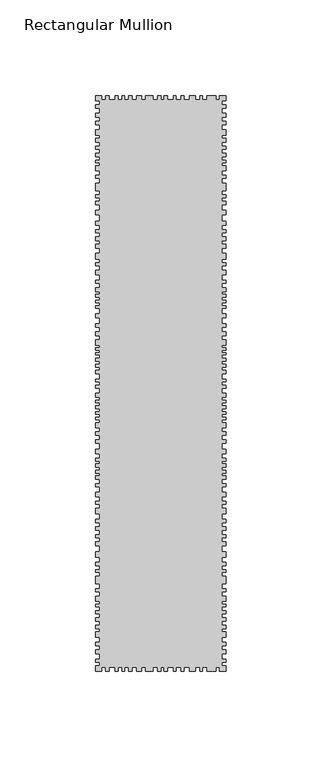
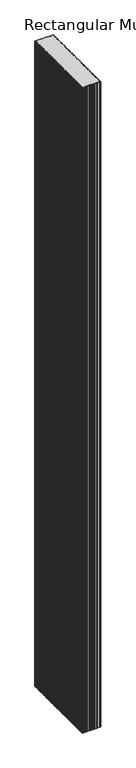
"""IFC4 building model written with IfcOpenShell, lengths in millimetres: member geometry, Rectangular Mullion : DucoSun Cubic Design louvre 300."""

import ifcopenshell
import ifcopenshell.guid

model = None  # the IFC model being written
_history = None  # IfcOwnerHistory: only IFC2X3 demands one
_inside = {}  # id of a spatial element -> (the spatial element, [elements in it])
_under = {}  # id of a project, library or spatial element -> (it, [spatial elements below it])
_declared = {}  # id of a project -> (the project, [libraries it declares])
_typed = {}  # id of a type object -> (the type object, [elements of that type])
_made_of = {}  # id of a material, layer set ... -> (it, [elements and type objects made of it])


def new_model(schema):
    """Start an empty IFC model of exactly this schema.

    Asked for "IFC4X3", IfcOpenShell would pick the latest addendum, in which some entities
    have other attributes; the version numbers below select the first issue.
    IFC2X3 requires an IfcOwnerHistory on every rooted entity: one is made here for all.
    """
    global model, _history
    if schema == "IFC4X3":
        model = ifcopenshell.file(schema_version=(4, 3, 0, 0))
    else:
        model = ifcopenshell.file(schema=schema)
    _inside.clear()
    _under.clear()
    _declared.clear()
    _typed.clear()
    _made_of.clear()
    _history = None
    if model.schema == "IFC2X3":
        org = make("IfcOrganization", Name="unknown")
        user = make(
            "IfcPersonAndOrganization",
            ThePerson=make("IfcPerson", FamilyName="unknown"),
            TheOrganization=org,
        )
        app = make(
            "IfcApplication",
            ApplicationDeveloper=org,
            Version="unknown",
            ApplicationFullName="unknown",
            ApplicationIdentifier="unknown",
        )
        _history = make(
            "IfcOwnerHistory",
            OwningUser=user,
            OwningApplication=app,
            ChangeAction="ADDED",
            CreationDate=0,
        )
    return model


def make(cls, **values):
    """One entity of the class cls with the attributes given. An attribute that is None is left unset."""
    return model.create_entity(
        cls, **{name: value for name, value in values.items() if value is not None}
    )


def rooted(cls, **values):
    """An entity with a GlobalId (a new one), such as an element, a storey or a relation."""
    return make(cls, GlobalId=ifcopenshell.guid.new(), OwnerHistory=_history, **values)


def si_unit(unit_type, name, prefix=None):
    """IfcSIUnit, for example si_unit("LENGTHUNIT", "METRE", prefix="MILLI")."""
    return make("IfcSIUnit", UnitType=unit_type, Prefix=prefix, Name=name)


def assignment(units):
    """IfcUnitAssignment: the units of a project."""
    return None if units is None else make("IfcUnitAssignment", Units=units)


def point(xyz):
    """IfcCartesianPoint."""
    return None if xyz is None else make("IfcCartesianPoint", Coordinates=xyz)


def direction(xyz):
    """IfcDirection."""
    return None if xyz is None else make("IfcDirection", DirectionRatios=xyz)


def frame(location, z_axis=None, x_axis=None):
    """IfcAxis2Placement3D, a coordinate frame: its origin and axes. An axis left out is left unset."""
    return make(
        "IfcAxis2Placement3D",
        Location=point(location),
        Axis=direction(z_axis),
        RefDirection=direction(x_axis),
    )


def origin():
    """The frame at (0, 0, 0) with its axes left unset."""
    return frame((0.0, 0.0, 0.0))


def place(relative_to, where):
    """IfcLocalPlacement: puts the frame where relative to a parent placement (None: the world)."""
    return make(
        "IfcLocalPlacement", PlacementRelTo=relative_to, RelativePlacement=where
    )


def context(
    kind, dimensions, precision=None, world=None, true_north=None, identifier=None
):
    """IfcGeometricRepresentationContext, for example the 3D "Model" context."""
    return make(
        "IfcGeometricRepresentationContext",
        ContextIdentifier=identifier,
        ContextType=kind,
        CoordinateSpaceDimension=dimensions,
        Precision=precision,
        WorldCoordinateSystem=world,
        TrueNorth=true_north,
    )


def project(units=None, contexts=None):
    """IfcProject with its units and contexts."""
    return rooted(
        "IfcProject",
        Name="project",
        RepresentationContexts=contexts,
        UnitsInContext=assignment(units),
    )


def spatial(cls, under=None, at=None, **own):
    """A site, building, storey or space (cls), placed at a placement, below another one or the project."""
    s = rooted(cls, ObjectPlacement=at, **own)
    if under is not None:
        _under.setdefault(under.id(), (under, []))[1].append(s)
    return s


def polyline(points):
    """IfcPolyline through the points."""
    return make("IfcPolyline", Points=[point(p) for p in points])


def outline(outer, holes=None, kind="AREA"):
    """IfcArbitraryClosedProfileDef: a profile drawn as a closed curve; with holes, ...WithVoids."""
    if holes is None:
        return make("IfcArbitraryClosedProfileDef", ProfileType=kind, OuterCurve=outer)
    return make(
        "IfcArbitraryProfileDefWithVoids",
        ProfileType=kind,
        OuterCurve=outer,
        InnerCurves=holes,
    )


def extrude(swept, where, along, depth):
    """IfcExtrudedAreaSolid: the profile swept, set in the frame where, extruded along a direction by depth."""
    return make(
        "IfcExtrudedAreaSolid",
        SweptArea=swept,
        Position=where,
        ExtrudedDirection=direction(along),
        Depth=depth,
    )


def shape(context_of_items, identifier, shape_type, items):
    """IfcShapeRepresentation: the items that make up one representation, for example the "Body"."""
    return make(
        "IfcShapeRepresentation",
        ContextOfItems=context_of_items,
        RepresentationIdentifier=identifier,
        RepresentationType=shape_type,
        Items=items,
    )


def source(mapping_origin, context_of_items, identifier, shape_type, items):
    """IfcRepresentationMap: a shape defined once, which mapped items show again and again."""
    return make(
        "IfcRepresentationMap",
        MappingOrigin=mapping_origin,
        MappedRepresentation=shape(context_of_items, identifier, shape_type, items),
    )


def transform(
    local_origin,
    x_axis=None,
    y_axis=None,
    z_axis=None,
    scale=None,
    scale2=None,
    scale3=None,
    uniform=True,
):
    """IfcCartesianTransformationOperator3D, or its non-uniform kind. x_axis, y_axis, z_axis: its Axis1, 2, 3."""
    if uniform:
        return make(
            "IfcCartesianTransformationOperator3D",
            Axis1=direction(x_axis),
            Axis2=direction(y_axis),
            LocalOrigin=point(local_origin),
            Scale=scale,
            Axis3=direction(z_axis),
        )
    return make(
        "IfcCartesianTransformationOperator3DnonUniform",
        Axis1=direction(x_axis),
        Axis2=direction(y_axis),
        LocalOrigin=point(local_origin),
        Scale=scale,
        Axis3=direction(z_axis),
        Scale2=scale2,
        Scale3=scale3,
    )


def mapped(mapping_source, mapping_target):
    """IfcMappedItem: shows the shape of a source again, moved by a transform."""
    return make(
        "IfcMappedItem", MappingSource=mapping_source, MappingTarget=mapping_target
    )


def made_of(thing, what):
    """Note that an element or type object is made of a material, layer set ...; save() writes the relation."""
    if what is not None:
        _made_of.setdefault(what.id(), (what, []))[1].append(thing)
    return thing


def element(
    cls,
    number,
    at=None,
    inside=None,
    cuts=None,
    type_object=None,
    material=None,
    context=None,
    identifier="Body",
    shape_type=None,
    held_by="IfcProductDefinitionShape",
    body=None,
    shapes=None,
    **own,
):
    """One element of the class cls, such as IfcWall. Its Tag is "e" and its number.

    at: its placement. inside: the storey or other place that contains it. cuts: it is an
    opening in that element (IfcRelVoidsElement). A single representation is given by context,
    identifier, shape_type and body (its items); several are given by shapes. held_by: the class
    of the entity that holds the representations. save() writes the other relations.
    """
    e = rooted(cls, Tag="e%d" % number, ObjectPlacement=at, **own)
    if body is not None:
        shapes = [shape(context, identifier, shape_type, body)]
    if shapes is not None:
        e.Representation = make(held_by, Representations=shapes)
    if inside is not None:
        _inside.setdefault(inside.id(), (inside, []))[1].append(e)
    if cuts is not None:
        rooted(
            "IfcRelVoidsElement", RelatingBuildingElement=cuts, RelatedOpeningElement=e
        )
    if type_object is not None:
        _typed.setdefault(type_object.id(), (type_object, []))[1].append(e)
    return made_of(e, material)


def aggregate(whole, parts):
    """IfcRelAggregates: a whole, such as a stair, and the parts it consists of."""
    return rooted("IfcRelAggregates", RelatingObject=whole, RelatedObjects=parts)


def save(model, path):
    """Write the relations noted so far, then the file.

    IfcRelAggregates (storeys below a building ...), IfcRelContainedInSpatialStructure (elements
    in a storey), IfcRelDefinesByType, IfcRelAssociatesMaterial and IfcRelDeclares: one each for
    every whole, place, type object, material and project.
    """
    for whole, parts in _under.values():
        aggregate(whole, parts)
    for where, things in _inside.values():
        rooted(
            "IfcRelContainedInSpatialStructure",
            RelatedElements=things,
            RelatingStructure=where,
        )
    for kind, things in _typed.values():
        rooted("IfcRelDefinesByType", RelatedObjects=things, RelatingType=kind)
    for what, things in _made_of.values():
        rooted("IfcRelAssociatesMaterial", RelatedObjects=things, RelatingMaterial=what)
    for by, libraries in _declared.values():
        rooted("IfcRelDeclares", RelatingContext=by, RelatedDefinitions=libraries)
    model.write(path)


def rectangular_mullion_e7a12ab5(model_context):
    return source(origin(), model_context, "Body", "SweptSolid", [
        extrude(outline(polyline([(34.0, 297.3782451), (32.0, 297.3782451), (32.0, 295.4241521), (34.0, 295.4241521), (34.0, 293.6532553), (32.0, 293.6532553), (32.0, 290.9460223), (34.0, 290.9460223), (34.0, 288.9105087), (32.0, 288.9105087), (32.0, 286.7121541), (34.0, 286.7121541), (34.0, 285.0023227), (32.0, 285.0023227), (32.0, 282.3561551), (34.0, 282.3561551), (34.0, 279.3843053), (32.0, 279.3843053), (32.0, 277.8917893), (34.0, 277.8917893), (34.0, 275.8425117), (32.0, 275.8425117), (32.0, 273.8680636), (34.0, 273.8680636), (34.0, 272.1582322), (32.0, 272.1582322), (32.0, 270.0820083), (34.0, 270.0820083), (34.0, 268.3111116), (32.0, 268.3111116), (32.0, 266.4995045), (34.0, 266.4995045), (34.0, 265.0713495), (32.0, 265.0713495), (32.0, 263.4577392), (34.0, 263.4577392), (34.0, 261.0328231), (32.0, 261.0328231), (32.0, 258.5725067), (34.0, 258.5725067), (34.0, 257.0325964), (32.0, 257.0325964), (32.0, 254.5014796), (34.0, 254.5014796), (34.0, 250.4127524), (32.0, 250.4127524), (32.0, 248.4126391), (34.0, 248.4126391), (34.0, 246.8373286), (32.0, 246.8373286), (32.0, 244.9965163), (34.0, 244.9965163), (34.0, 243.3504053), (32.0, 243.3504053), (32.0, 240.3767855), (34.0, 240.3767855), (34.0, 237.9545244), (32.0, 237.9545244), (32.0, 234.5552168), (34.0, 234.5552168), (34.0, 232.5197032), (32.0, 232.5197032), (32.0, 230.239928), (34.0, 230.239928), (34.0, 228.6929377), (32.0, 228.6929377), (32.0, 226.4335177), (34.0, 226.4335177), (34.0, 224.5608452), (32.0, 224.5608452), (32.0, 222.6271073), (34.0, 222.6271073), (34.0, 220.5508835), (32.0, 220.5508835), (32.0, 218.0064916), (34.0, 218.0064916), (34.0, 214.9328661), (32.0, 214.9328661), (32.0, 212.9177077), (34.0, 212.9177077), (34.0, 211.4114277), (32.0, 211.4114277), (32.0, 208.9688114), (34.0, 208.9688114), (34.0, 206.7118273), (32.0, 206.7118273), (32.0, 203.8852623), (34.0, 203.8852623), (34.0, 202.4316003), (32.0, 202.4316003), (32.0, 199.9011516), (34.0, 199.9011516), (34.0, 197.8552569), (32.0, 197.8552569), (32.0, 196.6169522), (34.0, 196.6169522), (34.0, 195.0825312), (32.0, 195.0825312), (32.0, 193.4673512), (34.0, 193.4673512), (34.0, 192.0675286), (32.0, 192.0675286), (32.0, 190.5869469), (34.0, 190.5869469), (34.0, 189.1602046), (32.0, 189.1602046), (32.0, 186.3310055), (34.0, 186.3310055), (34.0, 184.2608252), (32.0, 184.2608252), (32.0, 181.1919832), (34.0, 181.1919832), (34.0, 179.2537672), (32.0, 179.2537672), (32.0, 176.9360418), (34.0, 176.9360418), (34.0, 175.0004598), (32.0, 175.0004598), (32.0, 172.9007258), (34.0, 172.9007258), (34.0, 170.1010805), (32.0, 170.1010805), (32.0, 168.8089365), (34.0, 168.8089365), (34.0, 167.3014351), (32.0, 167.3014351), (32.0, 166.0362108), (34.0, 166.0362108), (34.0, 165.0401831), (32.0, 165.0401831), (32.0, 163.2096458), (34.0, 163.2096458), (34.0, 161.6483051), (32.0, 161.6483051), (32.0, 160.1408038), (34.0, 160.1408038), (34.0, 158.6063828), (32.0, 158.6063828), (32.0, 157.0719618), (34.0, 157.0719618), (34.0, 155.0799064), (32.0, 155.0799064), (32.0, 152.3762692), (34.0, 152.3762692), (34.0, 150.8903036), (32.0, 150.8903036), (32.0, 149.1257194), (34.0, 149.1257194), (34.0, 147.6087962), (32.0, 147.6087962), (32.0, 144.8535683), (34.0, 144.8535683), (34.0, 142.7484504), (32.0, 142.7484504), (32.0, 141.4172729), (34.0, 141.4172729), (34.0, 139.9622649), (32.0, 139.9622649), (32.0, 138.3524688), (34.0, 138.3524688), (34.0, 136.8355456), (32.0, 136.8355456), (32.0, 135.1947919), (34.0, 135.1947919), (34.0, 133.9255296), (32.0, 133.9255296), (32.0, 132.5014792), (34.0, 132.5014792), (34.0, 131.1083865), (32.0, 131.1083865), (32.0, 129.6843361), (34.0, 129.6843361), (34.0, 127.0529387), (32.0, 127.0529387), (32.0, 124.9787784), (34.0, 124.9787784), (34.0, 123.0284485), (32.0, 123.0284485), (32.0, 120.7995001), (34.0, 120.7995001), (34.0, 118.8182126), (32.0, 118.8182126), (32.0, 115.6914933), (34.0, 115.6914933), (34.0, 113.4935025), (32.0, 113.4935025), (32.0, 110.954978), (34.0, 110.954978), (34.0, 109.4070971), (32.0, 109.4070971), (32.0, 108.1378348), (34.0, 108.1378348), (34.0, 106.4970812), (32.0, 106.4970812), (32.0, 104.8253698), (34.0, 104.8253698), (34.0, 103.3394042), (32.0, 103.3394042), (32.0, 102.0391843), (34.0, 102.0391843), (34.0, 100.0578969), (32.0, 100.0578969), (32.0, 97.6741604), (34.0, 97.6741604), (34.0, 96.0953219), (32.0, 96.0953219), (32.0, 93.3091364), (34.0, 93.3091364), (34.0, 91.0182728), (32.0, 91.0182728), (32.0, 88.572621), (34.0, 88.572621), (34.0, 87.1485707), (32.0, 87.1485707), (32.0, 85.0124951), (34.0, 85.0124951), (34.0, 82.1643944), (32.0, 82.1643944), (32.0, 79.3782089), (34.0, 79.3782089), (34.0, 77.427879), (32.0, 77.427879), (32.0, 75.4156339), (34.0, 75.4156339), (34.0, 73.6510498), (32.0, 73.6510498), (32.0, 71.1744404), (34.0, 71.1744404), (34.0, 69.6884748), (32.0, 69.6884748), (32.0, 67.5523993), (34.0, 67.5523993), (34.0, 65.4163237), (32.0, 65.4163237), (32.0, 62.1967316), (34.0, 62.1967316), (34.0, 59.5343765), (32.0, 59.5343765), (32.0, 56.7791486), (34.0, 56.7791486), (34.0, 55.0764797), (32.0, 55.0764797), (32.0, 52.9404041), (34.0, 52.9404041), (34.0, 51.6092266), (32.0, 51.6092266), (32.0, 49.5660239), (34.0, 49.5660239), (34.0, 45.512038), (32.0, 45.512038), (32.0, 43.0030092), (34.0, 43.0030092), (34.0, 41.3312979), (32.0, 41.3312979), (32.0, 39.0404342), (34.0, 39.0404342), (34.0, 36.5638249), (32.0, 36.5638249), (32.0, 35.015944), (34.0, 35.015944), (34.0, 33.5609361), (32.0, 33.5609361), (32.0, 31.5796486), (34.0, 31.5796486), (34.0, 30.0627254), (32.0, 30.0627254), (32.0, 27.8337769), (34.0, 27.8337769), (34.0, 26.1620656), (32.0, 26.1620656), (32.0, 24.0259901), (34.0, 24.0259901), (34.0, 22.0756602), (32.0, 22.0756602), (32.0, 20.6516099), (34.0, 20.6516099), (34.0, 17.7415939), (32.0, 17.7415939), (32.0, 15.2030693), (34.0, 15.2030693), (34.0, 13.1908242), (32.0, 13.1908242), (32.0, 11.2404944), (34.0, 11.2404944), (34.0, 9.1353764), (32.0, 9.1353764), (32.0, 6.2563181), (34.0, 6.2563181), (34.0, 4.6155644), (32.0, 4.6155644), (32.0, 2.8509802), (34.0, 2.8509802), (34.0, 0.0), (30.4544414, 0.0), (30.4544414, 2.0), (28.627942, 2.0), (28.627942, 0.0), (23.9842994, 0.0), (23.9842994, 2.0), (21.8172663, 2.0), (21.8172663, 0.0), (20.3003431, 0.0), (20.3003431, 2.0), (17.9475642, 2.0), (17.9475642, 0.0), (14.8827601, 0.0), (14.8827601, 2.0), (12.0965746, 2.0), (12.0965746, 0.0), (10.3939057, 0.0), (10.3939057, 2.0), (8.0101692, 2.0), (8.0101692, 0.0), (6.5242036, 0.0), (6.5242036, 2.0), (3.4884678, 2.0), (3.4884678, 0.0), (1.7094289, 0.0), (1.7094289, 2.0), (0.0, 2.0), (0.0, 0.0), (-1.8486488, 0.0), (-1.8486488, 2.0), (-4.2128978, 2.0), (-4.2128978, 0.0), (-7.9816511, 0.0), (-7.9816511, 2.0), (-10.0415908, 2.0), (-10.0415908, 0.0), (-12.7335575, 0.0), (-12.7335575, 2.0), (-15.0041729, 2.0), (-15.0041729, 0.0), (-16.8768453, 0.0), (-16.8768453, 2.0), (-18.9367851, 2.0), (-18.9367851, 0.0), (-20.2710642, 0.0), (-20.2710642, 2.0), (-22.3075955, 2.0), (-22.3075955, 0.0), (-23.8993671, 0.0), (-23.8993671, 2.0), (-26.9658683, 2.0), (-26.9658683, 0.0), (-28.9321744, 0.0), (-28.9321744, 2.0), (-30.8750721, 2.0), (-30.8750721, 0.0), (-34.0, 0.0), (-34.0, 2.8509802), (-32.0, 2.8509802), (-32.0, 4.6155644), (-34.0, 4.6155644), (-34.0, 6.2563181), (-32.0, 6.2563181), (-32.0, 9.1353764), (-34.0, 9.1353764), (-34.0, 11.2404944), (-32.0, 11.2404944), (-32.0, 13.1908242), (-34.0, 13.1908242), (-34.0, 15.2030693), (-32.0, 15.2030693), (-32.0, 17.7415939), (-34.0, 17.7415939), (-34.0, 20.6516099), (-32.0, 20.6516099), (-32.0, 22.0756602), (-34.0, 22.0756602), (-34.0, 24.0259901), (-32.0, 24.0259901), (-32.0, 26.1620656), (-34.0, 26.1620656), (-34.0, 27.8337769), (-32.0, 27.8337769), (-32.0, 30.0627254), (-34.0, 30.0627254), (-34.0, 31.5796486), (-32.0, 31.5796486), (-32.0, 33.5609361), (-34.0, 33.5609361), (-34.0, 35.015944), (-32.0, 35.015944), (-32.0, 36.5638249), (-34.0, 36.5638249), (-34.0, 39.0404342), (-32.0, 39.0404342), (-32.0, 41.3312979), (-34.0, 41.3312979), (-34.0, 43.0030092), (-32.0, 43.0030092), (-32.0, 45.512038), (-34.0, 45.512038), (-34.0, 49.5660239), (-32.0, 49.5660239), (-32.0, 51.6092266), (-34.0, 51.6092266), (-34.0, 52.9404041), (-32.0, 52.9404041), (-32.0, 55.0764797), (-34.0, 55.0764797), (-34.0, 56.7791486), (-32.0, 56.7791486), (-32.0, 59.5343765), (-34.0, 59.5343765), (-34.0, 62.1967316), (-32.0, 62.1967316), (-32.0, 65.4163237), (-34.0, 65.4163237), (-34.0, 67.5523993), (-32.0, 67.5523993), (-32.0, 69.6884748), (-34.0, 69.6884748), (-34.0, 71.1744404), (-32.0, 71.1744404), (-32.0, 73.6510498), (-34.0, 73.6510498), (-34.0, 75.4156339), (-32.0, 75.4156339), (-32.0, 77.427879), (-34.0, 77.427879), (-34.0, 79.3782089), (-32.0, 79.3782089), (-32.0, 82.1643944), (-34.0, 82.1643944), (-34.0, 85.0124951), (-32.0, 85.0124951), (-32.0, 87.1485707), (-34.0, 87.1485707), (-34.0, 88.572621), (-32.0, 88.572621), (-32.0, 91.0182728), (-34.0, 91.0182728), (-34.0, 93.3091364), (-32.0, 93.3091364), (-32.0, 96.0953219), (-34.0, 96.0953219), (-34.0, 97.6741604), (-32.0, 97.6741604), (-32.0, 100.0578969), (-34.0, 100.0578969), (-34.0, 102.0391843), (-32.0, 102.0391843), (-32.0, 103.3394042), (-34.0, 103.3394042), (-34.0, 104.8253698), (-32.0, 104.8253698), (-32.0, 106.4970812), (-34.0, 106.4970812), (-34.0, 108.1378348), (-32.0, 108.1378348), (-32.0, 109.4070971), (-34.0, 109.4070971), (-34.0, 110.954978), (-32.0, 110.954978), (-32.0, 113.4935025), (-34.0, 113.4935025), (-34.0, 115.6914933), (-32.0, 115.6914933), (-32.0, 118.8182126), (-34.0, 118.8182126), (-34.0, 120.7995001), (-32.0, 120.7995001), (-32.0, 123.0284485), (-34.0, 123.0284485), (-34.0, 124.9787784), (-32.0, 124.9787784), (-32.0, 127.0529387), (-34.0, 127.0529387), (-34.0, 129.6843361), (-32.0, 129.6843361), (-32.0, 131.1083865), (-34.0, 131.1083865), (-34.0, 132.5014792), (-32.0, 132.5014792), (-32.0, 133.9255296), (-34.0, 133.9255296), (-34.0, 135.1947919), (-32.0, 135.1947919), (-32.0, 136.8355456), (-34.0, 136.8355456), (-34.0, 138.3524688), (-32.0, 138.3524688), (-32.0, 139.9622649), (-34.0, 139.9622649), (-34.0, 141.4172729), (-32.0, 141.4172729), (-32.0, 142.7484504), (-34.0, 142.7484504), (-34.0, 144.8535683), (-32.0, 144.8535683), (-32.0, 147.6087962), (-34.0, 147.6087962), (-34.0, 149.1257194), (-32.0, 149.1257194), (-32.0, 150.8903036), (-34.0, 150.8903036), (-34.0, 152.3762692), (-32.0, 152.3762692), (-32.0, 155.0799064), (-34.0, 155.0799064), (-34.0, 157.0719618), (-32.0, 157.0719618), (-32.0, 158.6063828), (-34.0, 158.6063828), (-34.0, 160.1408038), (-32.0, 160.1408038), (-32.0, 161.6483051), (-34.0, 161.6483051), (-34.0, 163.2096458), (-32.0, 163.2096458), (-32.0, 165.0401831), (-34.0, 165.0401831), (-34.0, 166.0362108), (-32.0, 166.0362108), (-32.0, 167.3014351), (-34.0, 167.3014351), (-34.0, 168.8089365), (-32.0, 168.8089365), (-32.0, 170.1010805), (-34.0, 170.1010805), (-34.0, 172.9007258), (-32.0, 172.9007258), (-32.0, 175.0004598), (-34.0, 175.0004598), (-34.0, 176.9360418), (-32.0, 176.9360418), (-32.0, 179.2537672), (-34.0, 179.2537672), (-34.0, 181.1919832), (-32.0, 181.1919832), (-32.0, 184.2608252), (-34.0, 184.2608252), (-34.0, 186.3310055), (-32.0, 186.3310055), (-32.0, 189.1602046), (-34.0, 189.1602046), (-34.0, 190.5869469), (-32.0, 190.5869469), (-32.0, 192.0675286), (-34.0, 192.0675286), (-34.0, 193.4673512), (-32.0, 193.4673512), (-32.0, 195.0825312), (-34.0, 195.0825312), (-34.0, 196.6169522), (-32.0, 196.6169522), (-32.0, 197.8552569), (-34.0, 197.8552569), (-34.0, 199.9011516), (-32.0, 199.9011516), (-32.0, 202.4316003), (-34.0, 202.4316003), (-34.0, 203.8852623), (-32.0, 203.8852623), (-32.0, 206.7118273), (-34.0, 206.7118273), (-34.0, 208.9688114), (-32.0, 208.9688114), (-32.0, 211.4114277), (-34.0, 211.4114277), (-34.0, 212.9177077), (-32.0, 212.9177077), (-32.0, 214.9328661), (-34.0, 214.9328661), (-34.0, 218.0064916), (-32.0, 218.0064916), (-32.0, 220.5508835), (-34.0, 220.5508835), (-34.0, 222.6271073), (-32.0, 222.6271073), (-32.0, 224.5608452), (-34.0, 224.5608452), (-34.0, 226.4335177), (-32.0, 226.4335177), (-32.0, 228.6929377), (-34.0, 228.6929377), (-34.0, 230.239928), (-32.0, 230.239928), (-32.0, 232.5197032), (-34.0, 232.5197032), (-34.0, 234.5552168), (-32.0, 234.5552168), (-32.0, 237.9545244), (-34.0, 237.9545244), (-34.0, 240.3767855), (-32.0, 240.3767855), (-32.0, 243.3504053), (-34.0, 243.3504053), (-34.0, 244.9965163), (-32.0, 244.9965163), (-32.0, 246.8373286), (-34.0, 246.8373286), (-34.0, 248.4126391), (-32.0, 248.4126391), (-32.0, 250.4127524), (-34.0, 250.4127524), (-34.0, 254.5014796), (-32.0, 254.5014796), (-32.0, 257.0325964), (-34.0, 257.0325964), (-34.0, 258.5725067), (-32.0, 258.5725067), (-32.0, 261.0328231), (-34.0, 261.0328231), (-34.0, 263.4577392), (-32.0, 263.4577392), (-32.0, 265.0713495), (-34.0, 265.0713495), (-34.0, 266.4995045), (-32.0, 266.4995045), (-32.0, 268.3111116), (-34.0, 268.3111116), (-34.0, 270.0820083), (-32.0, 270.0820083), (-32.0, 272.1582322), (-34.0, 272.1582322), (-34.0, 273.8680636), (-32.0, 273.8680636), (-32.0, 275.8425117), (-34.0, 275.8425117), (-34.0, 277.8917893), (-32.0, 277.8917893), (-32.0, 279.3843053), (-34.0, 279.3843053), (-34.0, 282.3561551), (-32.0, 282.3561551), (-32.0, 285.0023227), (-34.0, 285.0023227), (-34.0, 286.7121541), (-32.0, 286.7121541), (-32.0, 288.9105087), (-34.0, 288.9105087), (-34.0, 290.9460223), (-32.0, 290.9460223), (-32.0, 293.6532553), (-34.0, 293.6532553), (-34.0, 295.4241521), (-32.0, 295.4241521), (-32.0, 297.3782451), (-34.0, 297.3782451), (-34.0, 300.0), (-30.8750721, 300.0), (-30.8750721, 298.0), (-28.9321744, 298.0), (-28.9321744, 300.0), (-26.9658683, 300.0), (-26.9658683, 298.0), (-23.8993671, 298.0), (-23.8993671, 300.0), (-22.3075955, 300.0), (-22.3075955, 298.0), (-20.2710642, 298.0), (-20.2710642, 300.0), (-18.9367851, 300.0), (-18.9367851, 298.0), (-16.8768453, 298.0), (-16.8768453, 300.0), (-15.0041729, 300.0), (-15.0041729, 298.0), (-12.7335575, 298.0), (-12.7335575, 300.0), (-10.0415908, 300.0), (-10.0415908, 298.0), (-7.9816511, 298.0), (-7.9816511, 300.0), (-4.2128978, 300.0), (-4.2128978, 298.0), (-1.8486488, 298.0), (-1.8486488, 300.0), (0.0, 300.0), (0.0, 298.0), (1.7094289, 298.0), (1.7094289, 300.0), (3.4884678, 300.0), (3.4884678, 298.0), (6.5242036, 298.0), (6.5242036, 300.0), (8.0101692, 300.0), (8.0101692, 298.0), (10.3939057, 298.0), (10.3939057, 300.0), (12.0965746, 300.0), (12.0965746, 298.0), (14.8827601, 298.0), (14.8827601, 300.0), (17.9475642, 300.0), (17.9475642, 298.0), (20.3003431, 298.0), (20.3003431, 300.0), (21.8172663, 300.0), (21.8172663, 298.0), (23.9842994, 298.0), (23.9842994, 300.0), (28.627942, 300.0), (28.627942, 298.0), (30.4544414, 298.0), (30.4544414, 300.0), (34.0, 300.0), (34.0, 297.3782451)])), frame((0.0, 0.0, -2500.0), z_axis=(0.0, 0.0, 1.0), x_axis=(1.0, 0.0, 0.0)), (0.0, 0.0, 1.0), 2500.0),
    ])


if __name__ == "__main__":
    model = new_model("IFC4")
    model_context = context("Model", 3, world=origin())
    ifc_project = project(units=[si_unit("LENGTHUNIT", "METRE", prefix="MILLI")], contexts=[model_context])
    site = spatial("IfcSite", under=ifc_project)
    building = spatial("IfcBuilding", under=site)
    placement = place(None, origin())
    rectangular_mullion_shape = rectangular_mullion_e7a12ab5(model_context)
    element("IfcMember", 1, ObjectType="Rectangular Mullion : DucoSun Cubic Design louvre 300", at=placement, inside=building, context=model_context, shape_type="MappedRepresentation", body=[
        mapped(rectangular_mullion_shape, transform((0.0, 0.0, 0.0), x_axis=(1.0, 0.0, 0.0), y_axis=(0.0, 1.0, 0.0), z_axis=(0.0, 0.0, 1.0))),
    ])
    save(model, "model.ifc")
